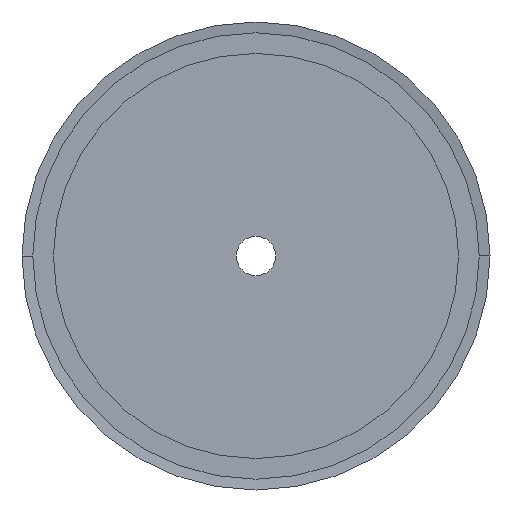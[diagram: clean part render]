
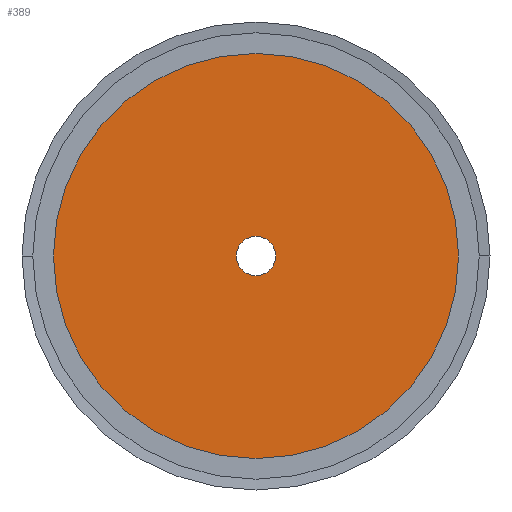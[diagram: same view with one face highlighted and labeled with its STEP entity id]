
A CAD part, left-side view. The second image highlights one B-rep face of the part: STEP entity #389.
In plain terms, the highlighted planar face has unit normal (-1, 0, 0).
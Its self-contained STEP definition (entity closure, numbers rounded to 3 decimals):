
#389 = ADVANCED_FACE( '', ( #1025, #1026 ), #1027, .T. );
#1025 = FACE_BOUND( '', #1662, .T. );
#1026 = FACE_OUTER_BOUND( '', #1663, .T. );
#1027 = PLANE( '', #1664 );
#1662 = EDGE_LOOP( '', ( #4435, #4436 ) );
#1663 = EDGE_LOOP( '', ( #4437, #4438 ) );
#1664 = AXIS2_PLACEMENT_3D( '', #4439, #4440, #4441 );
#4435 = ORIENTED_EDGE( '', *, *, #5352, .F. );
#4436 = ORIENTED_EDGE( '', *, *, #4457, .F. );
#4437 = ORIENTED_EDGE( '', *, *, #4445, .T. );
#4438 = ORIENTED_EDGE( '', *, *, #5357, .T. );
#4439 = CARTESIAN_POINT( '', ( 0., 28.25, 0. ) );
#4440 = DIRECTION( '', ( -1., 0., 0. ) );
#4441 = DIRECTION( '', ( 0., 1., 0. ) );
#4445 = EDGE_CURVE( '', #5359, #5363, #5365, .T. );
#4457 = EDGE_CURVE( '', #5387, #5383, #5389, .T. );
#5352 = EDGE_CURVE( '', #5383, #5387, #6876, .T. );
#5357 = EDGE_CURVE( '', #5363, #5359, #6881, .T. );
#5359 = VERTEX_POINT( '', #6883 );
#5363 = VERTEX_POINT( '', #6888 );
#5365 = CIRCLE( '', #6891, 51.5 );
#5383 = VERTEX_POINT( '', #6913 );
#5387 = VERTEX_POINT( '', #6918 );
#5389 = CIRCLE( '', #6921, 5. );
#6876 = CIRCLE( '', #8924, 5. );
#6881 = CIRCLE( '', #8929, 51.5 );
#6883 = CARTESIAN_POINT( '', ( 0., 51.5, 0. ) );
#6888 = CARTESIAN_POINT( '', ( 0., -51.5, 0. ) );
#6891 = AXIS2_PLACEMENT_3D( '', #8935, #8936, #8937 );
#6913 = CARTESIAN_POINT( '', ( 0., 5., 0. ) );
#6918 = CARTESIAN_POINT( '', ( 0., -5., 0. ) );
#6921 = AXIS2_PLACEMENT_3D( '', #8959, #8960, #8961 );
#8924 = AXIS2_PLACEMENT_3D( '', #10612, #10613, #10614 );
#8929 = AXIS2_PLACEMENT_3D( '', #10627, #10628, #10629 );
#8935 = CARTESIAN_POINT( '', ( 0., 0., 0. ) );
#8936 = DIRECTION( '', ( -1., 0., 0. ) );
#8937 = DIRECTION( '', ( 0., 1., 0. ) );
#8959 = CARTESIAN_POINT( '', ( 0., 0., 0. ) );
#8960 = DIRECTION( '', ( -1., 0., 0. ) );
#8961 = DIRECTION( '', ( 0., 1., 0. ) );
#10612 = CARTESIAN_POINT( '', ( 0., 0., 0. ) );
#10613 = DIRECTION( '', ( -1., 0., 0. ) );
#10614 = DIRECTION( '', ( 0., 1., 0. ) );
#10627 = CARTESIAN_POINT( '', ( 0., 0., 0. ) );
#10628 = DIRECTION( '', ( -1., 0., 0. ) );
#10629 = DIRECTION( '', ( 0., 1., 0. ) );
